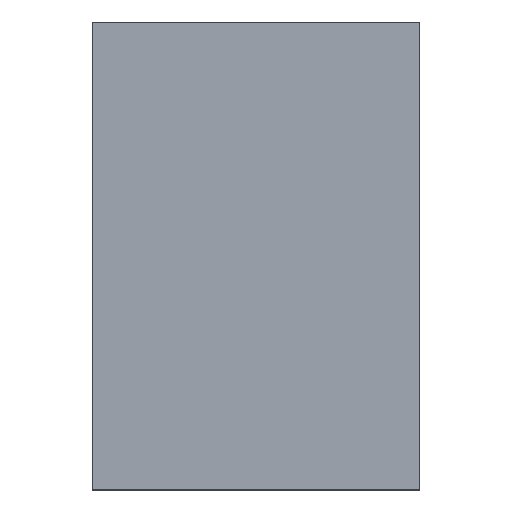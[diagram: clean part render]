
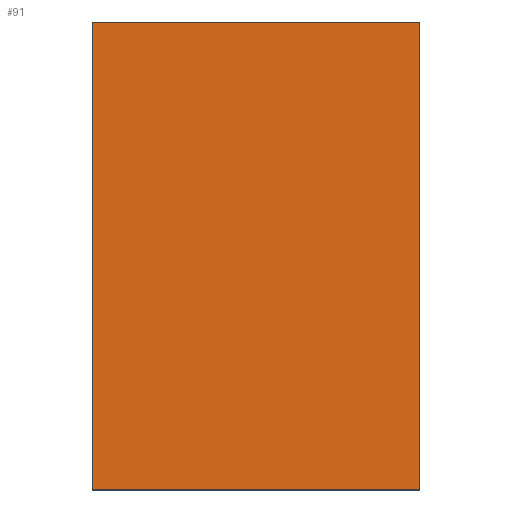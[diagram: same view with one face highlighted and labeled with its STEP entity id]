
A CAD part, top view. The second image highlights one B-rep face of the part: STEP entity #91.
In plain terms, the highlighted planar face has unit normal (0, 0, 1).
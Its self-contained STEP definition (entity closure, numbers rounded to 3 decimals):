
#1 = EDGE_CURVE ( 'NONE', #169, #45, #229, .T. ) ;
#3 = CARTESIAN_POINT ( 'NONE',  ( 0., 0., 0. ) ) ;
#14 = VECTOR ( 'NONE', #23, 1000. ) ;
#23 = DIRECTION ( 'NONE',  ( 1., 0., 0. ) ) ;
#25 = VERTEX_POINT ( 'NONE', #127 ) ;
#27 = LINE ( 'NONE', #144, #88 ) ;
#34 = EDGE_CURVE ( 'NONE', #210, #25, #60, .T. ) ;
#35 = VECTOR ( 'NONE', #47, 1000. ) ;
#45 = VERTEX_POINT ( 'NONE', #3 ) ;
#47 = DIRECTION ( 'NONE',  ( -1., 0., 0. ) ) ;
#60 = LINE ( 'NONE', #212, #35 ) ;
#61 = ORIENTED_EDGE ( 'NONE', *, *, #222, .T. ) ;
#62 = EDGE_LOOP ( 'NONE', ( #129, #112, #61, #211 ) ) ;
#63 = EDGE_CURVE ( 'NONE', #45, #210, #27, .T. ) ;
#83 = AXIS2_PLACEMENT_3D ( 'NONE', #116, #175, #195 ) ;
#85 = DIRECTION ( 'NONE',  ( 0., -1., 0. ) ) ;
#88 = VECTOR ( 'NONE', #125, 1000. ) ;
#91 = ADVANCED_FACE ( 'NONE', ( #217 ), #232, .T. ) ;
#98 = VECTOR ( 'NONE', #85, 1000. ) ;
#112 = ORIENTED_EDGE ( 'NONE', *, *, #34, .T. ) ;
#116 = CARTESIAN_POINT ( 'NONE',  ( 0., 0., 0. ) ) ;
#125 = DIRECTION ( 'NONE',  ( 0., 1., 0. ) ) ;
#127 = CARTESIAN_POINT ( 'NONE',  ( -1260., 1800., 0. ) ) ;
#129 = ORIENTED_EDGE ( 'NONE', *, *, #63, .T. ) ;
#144 = CARTESIAN_POINT ( 'NONE',  ( 0., 0., 0. ) ) ;
#155 = LINE ( 'NONE', #194, #98 ) ;
#169 = VERTEX_POINT ( 'NONE', #235 ) ;
#175 = DIRECTION ( 'NONE',  ( 0., 0., 1. ) ) ;
#194 = CARTESIAN_POINT ( 'NONE',  ( -1260., 0., 0. ) ) ;
#195 = DIRECTION ( 'NONE',  ( 1., 0., 0. ) ) ;
#210 = VERTEX_POINT ( 'NONE', #233 ) ;
#211 = ORIENTED_EDGE ( 'NONE', *, *, #1, .T. ) ;
#212 = CARTESIAN_POINT ( 'NONE',  ( 0., 1800., 0. ) ) ;
#214 = CARTESIAN_POINT ( 'NONE',  ( 0., 0., 0. ) ) ;
#217 = FACE_OUTER_BOUND ( 'NONE', #62, .T. ) ;
#222 = EDGE_CURVE ( 'NONE', #25, #169, #155, .T. ) ;
#229 = LINE ( 'NONE', #214, #14 ) ;
#232 = PLANE ( 'NONE',  #83 ) ;
#233 = CARTESIAN_POINT ( 'NONE',  ( 0., 1800., 0. ) ) ;
#235 = CARTESIAN_POINT ( 'NONE',  ( -1260., 0., 0. ) ) ;
